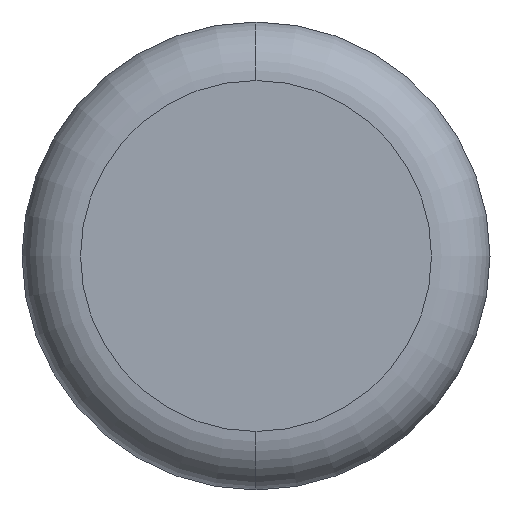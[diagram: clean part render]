
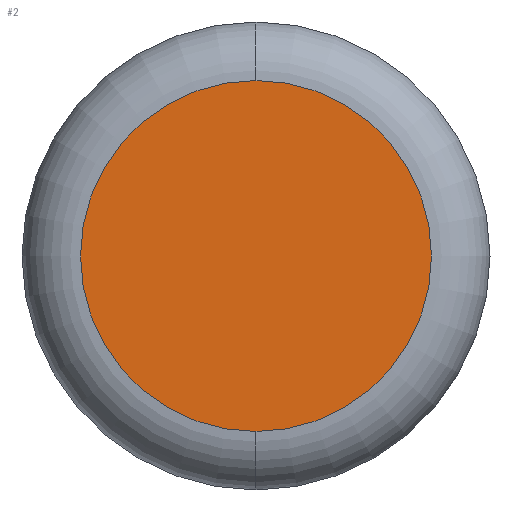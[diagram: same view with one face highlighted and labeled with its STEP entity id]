
A CAD part, left-side view. The second image highlights one B-rep face of the part: STEP entity #2.
In plain terms, the highlighted planar face has unit normal (-1, 0, 0).
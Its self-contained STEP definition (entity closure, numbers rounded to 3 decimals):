
#2 = ADVANCED_FACE ( 'NONE', ( #21 ), #156, .F. ) ;
#9 = AXIS2_PLACEMENT_3D ( 'NONE', #186, #86, #22 ) ;
#21 = FACE_OUTER_BOUND ( 'NONE', #178, .T. ) ;
#22 = DIRECTION ( 'NONE',  ( 0., 0., -1. ) ) ;
#40 = ORIENTED_EDGE ( 'NONE', *, *, #179, .T. ) ;
#49 = VERTEX_POINT ( 'NONE', #127 ) ;
#72 = DIRECTION ( 'NONE',  ( 1., 0., 0. ) ) ;
#75 = AXIS2_PLACEMENT_3D ( 'NONE', #153, #72, #91 ) ;
#86 = DIRECTION ( 'NONE',  ( -1., 0., 0. ) ) ;
#91 = DIRECTION ( 'NONE',  ( 0., 0., -1. ) ) ;
#107 = CARTESIAN_POINT ( 'NONE',  ( 0., 0., 0. ) ) ;
#109 = DIRECTION ( 'NONE',  ( 0., 0., -1. ) ) ;
#111 = ORIENTED_EDGE ( 'NONE', *, *, #123, .T. ) ;
#123 = EDGE_CURVE ( 'NONE', #49, #221, #128, .T. ) ;
#127 = CARTESIAN_POINT ( 'NONE',  ( 0., 0., 1.5 ) ) ;
#128 = CIRCLE ( 'NONE', #9, 1.5 ) ;
#129 = DIRECTION ( 'NONE',  ( -1., 0., 0. ) ) ;
#133 = CARTESIAN_POINT ( 'NONE',  ( 0., 0., -1.5 ) ) ;
#153 = CARTESIAN_POINT ( 'NONE',  ( 0., 0., 0. ) ) ;
#156 = PLANE ( 'NONE',  #75 ) ;
#178 = EDGE_LOOP ( 'NONE', ( #40, #111 ) ) ;
#179 = EDGE_CURVE ( 'NONE', #221, #49, #205, .T. ) ;
#186 = CARTESIAN_POINT ( 'NONE',  ( 0., 0., 0. ) ) ;
#205 = CIRCLE ( 'NONE', #224, 1.5 ) ;
#221 = VERTEX_POINT ( 'NONE', #133 ) ;
#224 = AXIS2_PLACEMENT_3D ( 'NONE', #107, #129, #109 ) ;
